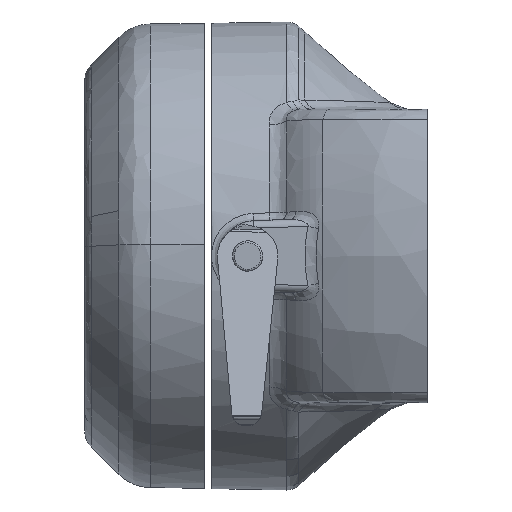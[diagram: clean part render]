
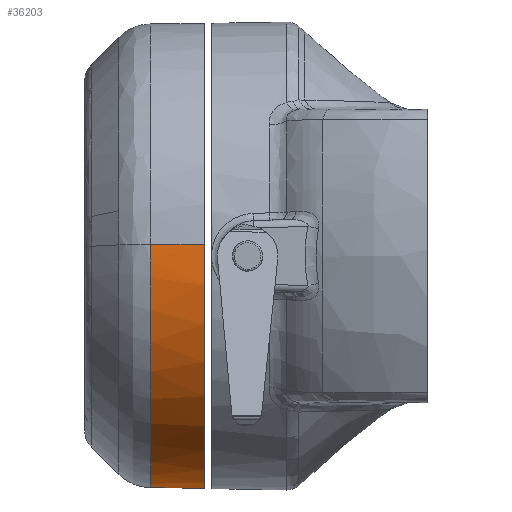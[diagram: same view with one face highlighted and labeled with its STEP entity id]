
A CAD part, left-side view. The second image highlights one B-rep face of the part: STEP entity #36203.
In plain terms, the highlighted conical face has half-angle 0.5 degrees and reference radius 62.527 mm.
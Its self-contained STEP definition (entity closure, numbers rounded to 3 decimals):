
#664 = EDGE_CURVE ( 'NONE', #8962, #2551, #2747, .T. ) ;
#838 = CARTESIAN_POINT ( 'NONE',  ( 7.124, 12.314, -3.666 ) ) ;
#1095 = AXIS2_PLACEMENT_3D ( 'NONE', #838, #14323, #34865 ) ;
#1458 = EDGE_CURVE ( 'NONE', #32386, #2551, #28213, .T. ) ;
#2551 = VERTEX_POINT ( 'NONE', #33461 ) ;
#2747 = CIRCLE ( 'NONE', #1095, 61.531 ) ;
#5460 = CARTESIAN_POINT ( 'NONE',  ( 7.12, 26.502, 57.741 ) ) ;
#8114 = CARTESIAN_POINT ( 'NONE',  ( -54.283, 26.507, 0.353 ) ) ;
#8539 = CARTESIAN_POINT ( 'NONE',  ( -54.283, 26.508, -3.666 ) ) ;
#8962 = VERTEX_POINT ( 'NONE', #21513 ) ;
#10169 = B_SPLINE_CURVE_WITH_KNOTS ( 'NONE', 3,
 ( #8539, #8114, #22362, #32342, #18817, #39016, #32200, #42607, #22221, #15085, #29061, #12091, #15521, #39301, #42748, #25075, #11523, #35340 ),
 .UNSPECIFIED., .F., .F.,
 ( 4, 2, 2, 2, 2, 2, 2, 2, 4 ),
 ( 0., 0.125, 0.25, 0.375, 0.5, 0.625, 0.75, 0.875, 1. ),
 .UNSPECIFIED. ) ;
#11191 = VECTOR ( 'NONE', #22003, 1000. ) ;
#11523 = CARTESIAN_POINT ( 'NONE',  ( 3.101, 26.502, 57.741 ) ) ;
#12091 = CARTESIAN_POINT ( 'NONE',  ( -23.65, 26.504, 49.625 ) ) ;
#13570 = EDGE_LOOP ( 'NONE', ( #43537, #18162, #43197, #16042 ) ) ;
#14323 = DIRECTION ( 'NONE',  ( 0., 1., 0. ) ) ;
#14463 = VERTEX_POINT ( 'NONE', #34369 ) ;
#14552 = CARTESIAN_POINT ( 'NONE',  ( 7.12, 26.502, 57.741 ) ) ;
#15085 = CARTESIAN_POINT ( 'NONE',  ( -33.455, 26.505, 42.597 ) ) ;
#15521 = CARTESIAN_POINT ( 'NONE',  ( -20.089, 26.503, 51.528 ) ) ;
#16042 = ORIENTED_EDGE ( 'NONE', *, *, #664, .T. ) ;
#18162 = ORIENTED_EDGE ( 'NONE', *, *, #21173, .F. ) ;
#18682 = CONICAL_SURFACE ( 'NONE', #19438, 62.527, 0.009 ) ;
#18745 = CARTESIAN_POINT ( 'NONE',  ( -54.283, 26.508, -3.666 ) ) ;
#18817 = CARTESIAN_POINT ( 'NONE',  ( -51.147, 26.507, 16.12 ) ) ;
#19438 = AXIS2_PLACEMENT_3D ( 'NONE', #25400, #42051, #28503 ) ;
#21173 = EDGE_CURVE ( 'NONE', #14463, #32386, #10169, .T. ) ;
#21513 = CARTESIAN_POINT ( 'NONE',  ( -54.407, 12.314, -3.666 ) ) ;
#22003 = DIRECTION ( 'NONE',  ( 0., -1., 0.009 ) ) ;
#22221 = CARTESIAN_POINT ( 'NONE',  ( -39.14, 26.505, 36.913 ) ) ;
#22362 = CARTESIAN_POINT ( 'NONE',  ( -53.887, 26.507, 4.373 ) ) ;
#25075 = CARTESIAN_POINT ( 'NONE',  ( -0.918, 26.502, 57.345 ) ) ;
#25400 = CARTESIAN_POINT ( 'NONE',  ( 7.124, -101.875, -3.666 ) ) ;
#28213 = LINE ( 'NONE', #14552, #11191 ) ;
#28503 = DIRECTION ( 'NONE',  ( 0.707, 0., -0.707 ) ) ;
#29061 = CARTESIAN_POINT ( 'NONE',  ( -30.333, 26.504, 45.16 ) ) ;
#31505 = VECTOR ( 'NONE', #42234, 1000. ) ;
#32200 = CARTESIAN_POINT ( 'NONE',  ( -46.168, 26.506, 27.107 ) ) ;
#32342 = CARTESIAN_POINT ( 'NONE',  ( -52.319, 26.507, 12.256 ) ) ;
#32386 = VERTEX_POINT ( 'NONE', #5460 ) ;
#33461 = CARTESIAN_POINT ( 'NONE',  ( 7.124, 12.314, 57.865 ) ) ;
#34261 = EDGE_CURVE ( 'NONE', #14463, #8962, #38407, .T. ) ;
#34369 = CARTESIAN_POINT ( 'NONE',  ( -54.283, 26.508, -3.666 ) ) ;
#34865 = DIRECTION ( 'NONE',  ( -1., 0., 0. ) ) ;
#35193 = FACE_OUTER_BOUND ( 'NONE', #13570, .T. ) ;
#35340 = CARTESIAN_POINT ( 'NONE',  ( 7.12, 26.502, 57.741 ) ) ;
#36203 = ADVANCED_FACE ( 'NONE', ( #35193 ), #18682, .T. ) ;
#38407 = LINE ( 'NONE', #18745, #31505 ) ;
#39016 = CARTESIAN_POINT ( 'NONE',  ( -48.071, 26.506, 23.546 ) ) ;
#39301 = CARTESIAN_POINT ( 'NONE',  ( -12.664, 26.503, 54.604 ) ) ;
#42051 = DIRECTION ( 'NONE',  ( 0., -1., 0. ) ) ;
#42234 = DIRECTION ( 'NONE',  ( -0.009, -1., 0. ) ) ;
#42607 = CARTESIAN_POINT ( 'NONE',  ( -41.702, 26.505, 33.791 ) ) ;
#42748 = CARTESIAN_POINT ( 'NONE',  ( -8.801, 26.503, 55.776 ) ) ;
#43197 = ORIENTED_EDGE ( 'NONE', *, *, #34261, .T. ) ;
#43537 = ORIENTED_EDGE ( 'NONE', *, *, #1458, .F. ) ;
